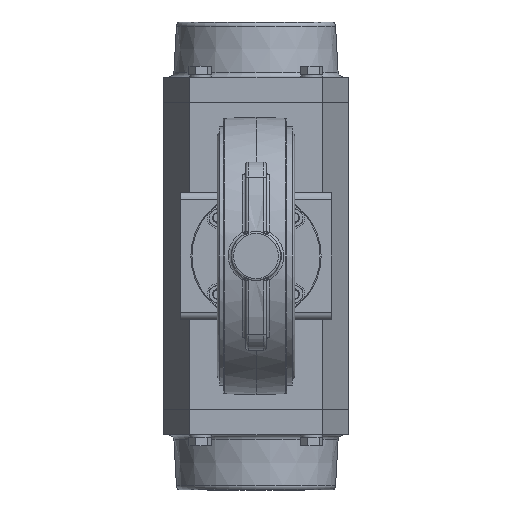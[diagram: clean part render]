
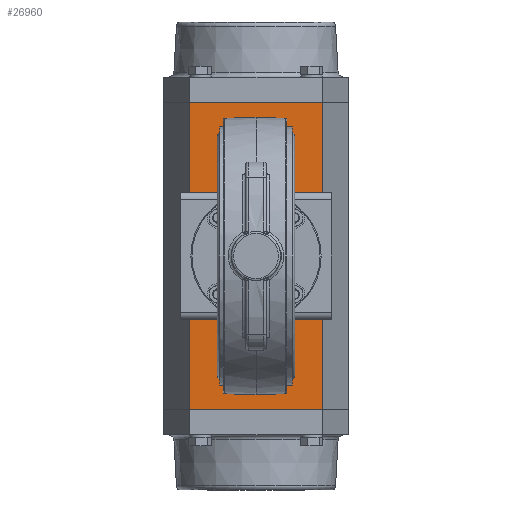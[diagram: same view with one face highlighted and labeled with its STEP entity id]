
A CAD part, front view. The second image highlights one B-rep face of the part: STEP entity #26960.
In plain terms, the highlighted planar face has unit normal (0, -1, 0).
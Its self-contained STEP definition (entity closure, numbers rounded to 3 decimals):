
#153 = CARTESIAN_POINT ( 'NONE',  ( -62.5, -100., -145. ) ) ;
#370 = EDGE_CURVE ( 'NONE', #15951, #25810, #33755, .T. ) ;
#1940 = EDGE_LOOP ( 'NONE', ( #40316, #3405 ) ) ;
#2147 = CARTESIAN_POINT ( 'NONE',  ( 44.194, -100., 44.194 ) ) ;
#2575 = DIRECTION ( 'NONE',  ( 0., -1., 0. ) ) ;
#2631 = VERTEX_POINT ( 'NONE', #11695 ) ;
#2827 = AXIS2_PLACEMENT_3D ( 'NONE', #19507, #46756, #23367 ) ;
#3067 = DIRECTION ( 'NONE',  ( 0., 0., 1. ) ) ;
#3405 = ORIENTED_EDGE ( 'NONE', *, *, #39718, .F. ) ;
#4221 = PLANE ( 'NONE',  #32872 ) ;
#4620 = VERTEX_POINT ( 'NONE', #37810 ) ;
#4649 = DIRECTION ( 'NONE',  ( 0., -1., 0. ) ) ;
#5054 = CIRCLE ( 'NONE', #28764, 5.1 ) ;
#5661 = VECTOR ( 'NONE', #12175, 1000. ) ;
#6090 = DIRECTION ( 'NONE',  ( 0., 0., -1. ) ) ;
#6397 = CARTESIAN_POINT ( 'NONE',  ( -44.194, -100., 39.094 ) ) ;
#6944 = CIRCLE ( 'NONE', #37295, 42.5 ) ;
#7306 = VECTOR ( 'NONE', #3067, 1000. ) ;
#7564 = EDGE_CURVE ( 'NONE', #25810, #15951, #28339, .T. ) ;
#8159 = DIRECTION ( 'NONE',  ( 0., -1., 0. ) ) ;
#8440 = EDGE_LOOP ( 'NONE', ( #17821, #13946, #31772, #42349 ) ) ;
#8474 = ORIENTED_EDGE ( 'NONE', *, *, #25220, .F. ) ;
#8502 = FACE_BOUND ( 'NONE', #12205, .T. ) ;
#8776 = CARTESIAN_POINT ( 'NONE',  ( -62.5, -100., -145. ) ) ;
#8856 = DIRECTION ( 'NONE',  ( 0., 0., 1. ) ) ;
#9449 = CIRCLE ( 'NONE', #36225, 5.1 ) ;
#10329 = CARTESIAN_POINT ( 'NONE',  ( 44.194, -100., -44.194 ) ) ;
#10336 = DIRECTION ( 'NONE',  ( 0., -1., 0. ) ) ;
#10896 = CARTESIAN_POINT ( 'NONE',  ( 0., -100., 0. ) ) ;
#11187 = VERTEX_POINT ( 'NONE', #34953 ) ;
#11597 = AXIS2_PLACEMENT_3D ( 'NONE', #13097, #40352, #17030 ) ;
#11695 = CARTESIAN_POINT ( 'NONE',  ( 62.5, -100., 145. ) ) ;
#12175 = DIRECTION ( 'NONE',  ( 1., 0., 0. ) ) ;
#12205 = EDGE_LOOP ( 'NONE', ( #12446, #31226 ) ) ;
#12369 = EDGE_CURVE ( 'NONE', #4620, #27726, #14090, .T. ) ;
#12446 = ORIENTED_EDGE ( 'NONE', *, *, #38309, .F. ) ;
#13097 = CARTESIAN_POINT ( 'NONE',  ( -44.194, -100., -44.194 ) ) ;
#13108 = AXIS2_PLACEMENT_3D ( 'NONE', #44596, #21241, #48521 ) ;
#13946 = ORIENTED_EDGE ( 'NONE', *, *, #30707, .F. ) ;
#14090 = CIRCLE ( 'NONE', #24700, 5.1 ) ;
#14250 = DIRECTION ( 'NONE',  ( 0., 0., -1. ) ) ;
#14828 = DIRECTION ( 'NONE',  ( 0., 0., -1. ) ) ;
#15815 = ORIENTED_EDGE ( 'NONE', *, *, #12369, .F. ) ;
#15951 = VERTEX_POINT ( 'NONE', #27330 ) ;
#16011 = LINE ( 'NONE', #8776, #5661 ) ;
#17030 = DIRECTION ( 'NONE',  ( 0., 0., -1. ) ) ;
#17145 = LINE ( 'NONE', #32114, #37844 ) ;
#17699 = CIRCLE ( 'NONE', #13108, 5.1 ) ;
#17819 = DIRECTION ( 'NONE',  ( 0., -1., 0. ) ) ;
#17821 = ORIENTED_EDGE ( 'NONE', *, *, #42605, .T. ) ;
#18543 = EDGE_LOOP ( 'NONE', ( #20753, #40492 ) ) ;
#18851 = FACE_BOUND ( 'NONE', #18543, .T. ) ;
#19505 = CARTESIAN_POINT ( 'NONE',  ( -62.5, -100., 145. ) ) ;
#19507 = CARTESIAN_POINT ( 'NONE',  ( 0., -100., 0. ) ) ;
#19846 = CARTESIAN_POINT ( 'NONE',  ( -62.5, -100., 145. ) ) ;
#20112 = VERTEX_POINT ( 'NONE', #19846 ) ;
#20294 = CARTESIAN_POINT ( 'NONE',  ( 44.194, -100., 49.294 ) ) ;
#20753 = ORIENTED_EDGE ( 'NONE', *, *, #370, .F. ) ;
#21241 = DIRECTION ( 'NONE',  ( 0., -1., 0. ) ) ;
#21353 = EDGE_LOOP ( 'NONE', ( #15815, #8474 ) ) ;
#23367 = DIRECTION ( 'NONE',  ( 0., 0., -1. ) ) ;
#23636 = VERTEX_POINT ( 'NONE', #40409 ) ;
#24700 = AXIS2_PLACEMENT_3D ( 'NONE', #33609, #10336, #37548 ) ;
#25052 = EDGE_CURVE ( 'NONE', #23636, #27446, #16011, .T. ) ;
#25220 = EDGE_CURVE ( 'NONE', #27726, #4620, #28103, .T. ) ;
#25810 = VERTEX_POINT ( 'NONE', #44081 ) ;
#25856 = CARTESIAN_POINT ( 'NONE',  ( -44.194, -100., 44.194 ) ) ;
#26764 = ORIENTED_EDGE ( 'NONE', *, *, #45866, .F. ) ;
#26766 = DIRECTION ( 'NONE',  ( 1., 0., 0. ) ) ;
#26960 = ADVANCED_FACE ( 'NONE', ( #8502, #49936, #29142, #18851, #48717, #38339 ), #4221, .T. ) ;
#27330 = CARTESIAN_POINT ( 'NONE',  ( -44.194, -100., -49.294 ) ) ;
#27446 = VERTEX_POINT ( 'NONE', #46735 ) ;
#27726 = VERTEX_POINT ( 'NONE', #32513 ) ;
#27913 = CARTESIAN_POINT ( 'NONE',  ( -44.194, -100., -44.194 ) ) ;
#28103 = CIRCLE ( 'NONE', #44298, 5.1 ) ;
#28339 = CIRCLE ( 'NONE', #11597, 5.1 ) ;
#28764 = AXIS2_PLACEMENT_3D ( 'NONE', #25856, #2575, #29766 ) ;
#28886 = VERTEX_POINT ( 'NONE', #33957 ) ;
#29004 = VERTEX_POINT ( 'NONE', #38227 ) ;
#29142 = FACE_BOUND ( 'NONE', #21353, .T. ) ;
#29332 = DIRECTION ( 'NONE',  ( 0., -1., 0. ) ) ;
#29554 = EDGE_CURVE ( 'NONE', #11187, #40184, #9449, .T. ) ;
#29766 = DIRECTION ( 'NONE',  ( 0., 0., -1. ) ) ;
#30210 = AXIS2_PLACEMENT_3D ( 'NONE', #27913, #4649, #31829 ) ;
#30212 = AXIS2_PLACEMENT_3D ( 'NONE', #2147, #29332, #6090 ) ;
#30239 = EDGE_LOOP ( 'NONE', ( #38197, #26764 ) ) ;
#30245 = CARTESIAN_POINT ( 'NONE',  ( -62.5, -100., -145. ) ) ;
#30707 = EDGE_CURVE ( 'NONE', #20112, #2631, #49040, .T. ) ;
#30876 = CIRCLE ( 'NONE', #2827, 42.5 ) ;
#31226 = ORIENTED_EDGE ( 'NONE', *, *, #31755, .F. ) ;
#31755 = EDGE_CURVE ( 'NONE', #42464, #28886, #6944, .T. ) ;
#31772 = ORIENTED_EDGE ( 'NONE', *, *, #48771, .F. ) ;
#31829 = DIRECTION ( 'NONE',  ( 0., 0., -1. ) ) ;
#32114 = CARTESIAN_POINT ( 'NONE',  ( 62.5, -100., -145. ) ) ;
#32513 = CARTESIAN_POINT ( 'NONE',  ( 44.194, -100., -39.094 ) ) ;
#32872 = AXIS2_PLACEMENT_3D ( 'NONE', #153, #8159, #35337 ) ;
#33609 = CARTESIAN_POINT ( 'NONE',  ( 44.194, -100., -44.194 ) ) ;
#33755 = CIRCLE ( 'NONE', #30210, 5.1 ) ;
#33957 = CARTESIAN_POINT ( 'NONE',  ( 0., -100., -42.5 ) ) ;
#34953 = CARTESIAN_POINT ( 'NONE',  ( 44.194, -100., 39.094 ) ) ;
#35337 = DIRECTION ( 'NONE',  ( 0., 0., -1. ) ) ;
#36225 = AXIS2_PLACEMENT_3D ( 'NONE', #41150, #17819, #45072 ) ;
#36700 = VERTEX_POINT ( 'NONE', #6397 ) ;
#37295 = AXIS2_PLACEMENT_3D ( 'NONE', #10896, #38125, #14828 ) ;
#37536 = DIRECTION ( 'NONE',  ( 0., -1., 0. ) ) ;
#37548 = DIRECTION ( 'NONE',  ( 0., 0., -1. ) ) ;
#37810 = CARTESIAN_POINT ( 'NONE',  ( 44.194, -100., -49.294 ) ) ;
#37844 = VECTOR ( 'NONE', #8856, 1000. ) ;
#38125 = DIRECTION ( 'NONE',  ( 0., -1., 0. ) ) ;
#38197 = ORIENTED_EDGE ( 'NONE', *, *, #47736, .F. ) ;
#38227 = CARTESIAN_POINT ( 'NONE',  ( -44.194, -100., 49.294 ) ) ;
#38309 = EDGE_CURVE ( 'NONE', #28886, #42464, #30876, .T. ) ;
#38339 = FACE_OUTER_BOUND ( 'NONE', #8440, .T. ) ;
#38672 = CARTESIAN_POINT ( 'NONE',  ( 0., -100., 42.5 ) ) ;
#39718 = EDGE_CURVE ( 'NONE', #40184, #11187, #39997, .T. ) ;
#39997 = CIRCLE ( 'NONE', #30212, 5.1 ) ;
#40184 = VERTEX_POINT ( 'NONE', #20294 ) ;
#40316 = ORIENTED_EDGE ( 'NONE', *, *, #29554, .F. ) ;
#40352 = DIRECTION ( 'NONE',  ( 0., -1., 0. ) ) ;
#40409 = CARTESIAN_POINT ( 'NONE',  ( -62.5, -100., -145. ) ) ;
#40492 = ORIENTED_EDGE ( 'NONE', *, *, #7564, .F. ) ;
#41150 = CARTESIAN_POINT ( 'NONE',  ( 44.194, -100., 44.194 ) ) ;
#42349 = ORIENTED_EDGE ( 'NONE', *, *, #25052, .T. ) ;
#42464 = VERTEX_POINT ( 'NONE', #38672 ) ;
#42605 = EDGE_CURVE ( 'NONE', #27446, #2631, #17145, .T. ) ;
#44081 = CARTESIAN_POINT ( 'NONE',  ( -44.194, -100., -39.094 ) ) ;
#44298 = AXIS2_PLACEMENT_3D ( 'NONE', #10329, #37536, #14250 ) ;
#44596 = CARTESIAN_POINT ( 'NONE',  ( -44.194, -100., 44.194 ) ) ;
#45072 = DIRECTION ( 'NONE',  ( 0., 0., -1. ) ) ;
#45866 = EDGE_CURVE ( 'NONE', #29004, #36700, #5054, .T. ) ;
#46735 = CARTESIAN_POINT ( 'NONE',  ( 62.5, -100., -145. ) ) ;
#46756 = DIRECTION ( 'NONE',  ( 0., -1., 0. ) ) ;
#47736 = EDGE_CURVE ( 'NONE', #36700, #29004, #17699, .T. ) ;
#48521 = DIRECTION ( 'NONE',  ( 0., 0., -1. ) ) ;
#48717 = FACE_BOUND ( 'NONE', #30239, .T. ) ;
#48720 = LINE ( 'NONE', #30245, #7306 ) ;
#48771 = EDGE_CURVE ( 'NONE', #23636, #20112, #48720, .T. ) ;
#49040 = LINE ( 'NONE', #19505, #50245 ) ;
#49936 = FACE_BOUND ( 'NONE', #1940, .T. ) ;
#50245 = VECTOR ( 'NONE', #26766, 1000. ) ;
